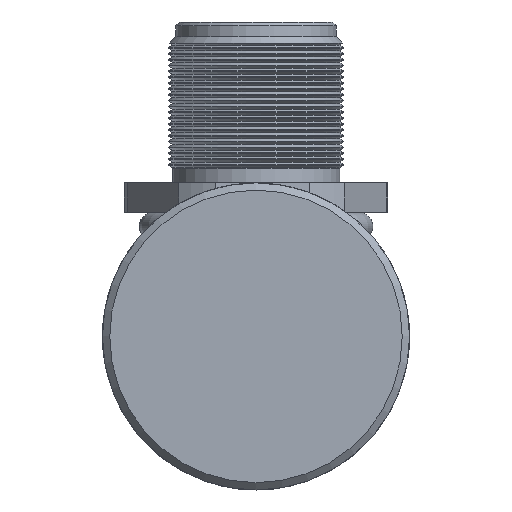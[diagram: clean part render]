
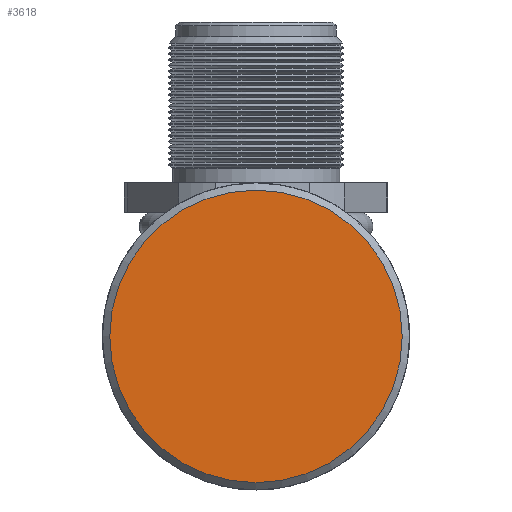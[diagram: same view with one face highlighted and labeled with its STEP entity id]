
A CAD part, left-side view. The second image highlights one B-rep face of the part: STEP entity #3618.
In plain terms, the highlighted planar face has unit normal (-1, 0, 0).
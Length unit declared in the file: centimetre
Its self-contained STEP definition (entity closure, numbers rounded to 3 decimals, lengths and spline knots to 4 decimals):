
#879=VERTEX_POINT('',#5133);
#1196=CIRCLE('',#3908,1.);
#1392=EDGE_CURVE('',#879,#879,#1196,.T.);
#1912=ORIENTED_EDGE('',*,*,#1392,.T.);
#2851=EDGE_LOOP('',(#1912));
#3240=FACE_BOUND('',#2851,.T.);
#3618=ADVANCED_FACE('',(#3240),#6991,.F.);
#3908=AXIS2_PLACEMENT_3D('',#5132,#4318,#4319);
#3909=AXIS2_PLACEMENT_3D('',#5134,#4320,$);
#4318=DIRECTION('',(-1.,0.,0.));
#4319=DIRECTION('',(0.,0.,-1.));
#4320=DIRECTION('',(1.,0.,0.));
#5132=CARTESIAN_POINT('',(-4.,0.,0.));
#5133=CARTESIAN_POINT('',(-4.,0.,-1.));
#5134=CARTESIAN_POINT('',(-4.,0.,0.));
#6991=PLANE('',#3909);
